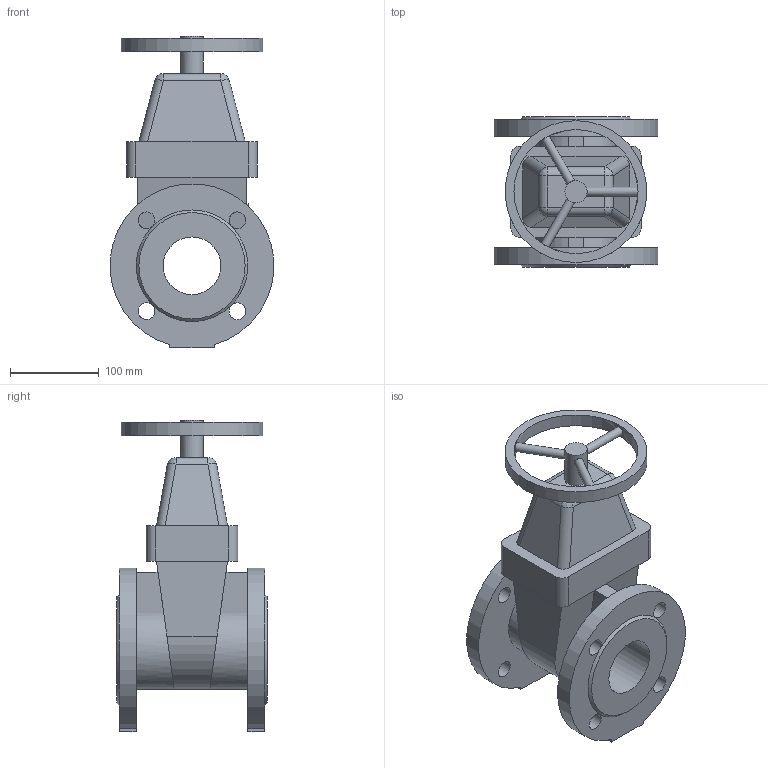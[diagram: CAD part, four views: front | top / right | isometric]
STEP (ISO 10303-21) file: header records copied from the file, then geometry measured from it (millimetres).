
FILE_DESCRIPTION(('STEP AP203'), '1');
FILE_NAME('Çàäâèæêà 47GV DN65 PN10_PN16_L170 ñ ìàõîâèêîì', '', ('UNSPECIFIED'), ('UNSPECIFIED'), 'ASCON STEP Converter 1.6', 'ASCON Math Kernel', '');
FILE_SCHEMA(('CONFIG_CONTROL_DESIGN'));
Length unit declared in the file: millimetre
Bounding box: 184.4 x 170 x 351.5 mm (x, y, z)
Volume: 3205061.4 mm3; surface area: 304571 mm2
Topology: 1 solids, 1 shells, 93 faces, 245 edges, 153 vertices
Faces by surface type: plane 47, cylinder 40, bspline 4, cone 2
Full cylindrical faces by diameter (mm): 10 x3, 19 x8, 25 x1, 65 x1, 140 x1, 160 x1
Entity records: 4442 total; most frequent: CARTESIAN_POINT 1508, DIRECTION 436, ORIENTED_EDGE 412, EDGE_CURVE 206, AXIS2_PLACEMENT_3D 158, EDGE_LOOP 146, VERTEX_POINT 144, LINE 120
